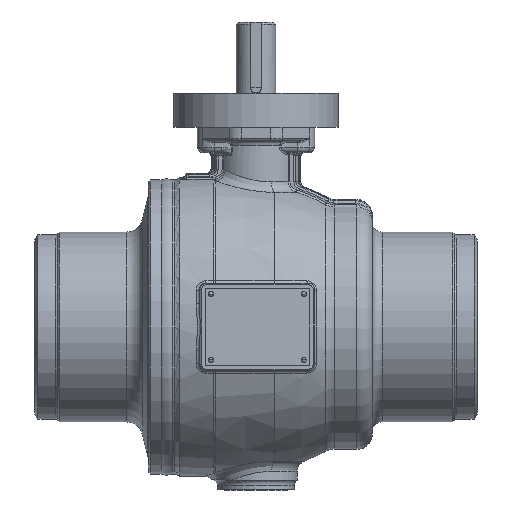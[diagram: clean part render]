
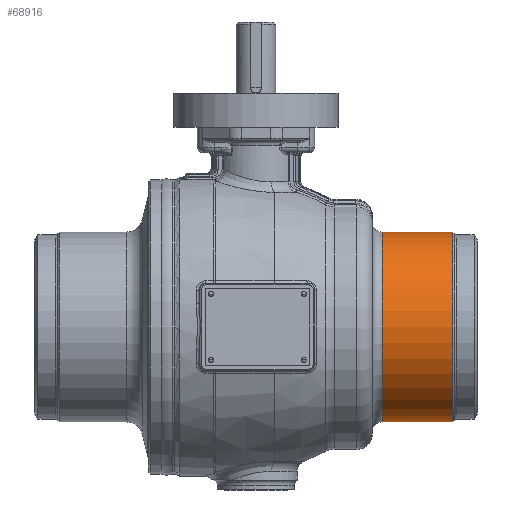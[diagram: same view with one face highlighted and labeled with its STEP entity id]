
A CAD part, front view. The second image highlights one B-rep face of the part: STEP entity #68916.
In plain terms, the highlighted cylindrical face has radius 86.5 mm (diameter 173 mm), a partial arc.
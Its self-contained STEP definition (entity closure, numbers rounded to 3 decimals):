
#16067=CARTESIAN_POINT('',(179.15,0.,0.));
#16068=DIRECTION('',(-1.,0.,0.));
#16069=DIRECTION('',(0.,0.,-1.));
#16070=AXIS2_PLACEMENT_3D('',#16067,#16068,#16069);
#16072=DIRECTION('',(-1.,0.,0.));
#16073=VECTOR('',#16072,64.15);
#16074=CARTESIAN_POINT('',(179.15,0.,-86.5));
#16075=LINE('',#16074,#16073);
#16076=CARTESIAN_POINT('',(115.,0.,0.));
#16077=DIRECTION('',(1.,0.,0.));
#16078=DIRECTION('',(0.,0.,1.));
#16079=AXIS2_PLACEMENT_3D('',#16076,#16077,#16078);
#16081=DIRECTION('',(-1.,0.,0.));
#16082=VECTOR('',#16081,64.15);
#16083=CARTESIAN_POINT('',(179.15,0.,86.5));
#16084=LINE('',#16083,#16082);
#31096=CARTESIAN_POINT('',(115.,0.,86.5));
#31097=CARTESIAN_POINT('',(115.,0.,-86.5));
#31098=VERTEX_POINT('',#31096);
#31099=VERTEX_POINT('',#31097);
#31192=CARTESIAN_POINT('',(179.15,0.,86.5));
#31193=CARTESIAN_POINT('',(179.15,0.,-86.5));
#31194=VERTEX_POINT('',#31192);
#31195=VERTEX_POINT('',#31193);
#68905=CARTESIAN_POINT('',(218.35,0.,0.));
#68906=DIRECTION('',(-1.,0.,0.));
#68907=DIRECTION('',(0.,0.,1.));
#68908=AXIS2_PLACEMENT_3D('',#68905,#68906,#68907);
#68909=CYLINDRICAL_SURFACE('',#68908,86.5);
#68910=ORIENTED_EDGE('',*,*,#68899,.F.);
#68911=ORIENTED_EDGE('',*,*,#68815,.T.);
#68912=ORIENTED_EDGE('',*,*,#68785,.F.);
#68913=ORIENTED_EDGE('',*,*,#68812,.F.);
#68914=EDGE_LOOP('',(#68910,#68911,#68912,#68913));
#68915=FACE_OUTER_BOUND('',#68914,.F.);
#68916=ADVANCED_FACE('',(#68915),#68909,.T.);
#16071=CIRCLE('',#16070,86.5);
#16080=CIRCLE('',#16079,86.5);
#68785=EDGE_CURVE('',#31098,#31099,#16080,.T.);
#68812=EDGE_CURVE('',#31194,#31098,#16084,.T.);
#68815=EDGE_CURVE('',#31195,#31099,#16075,.T.);
#68899=EDGE_CURVE('',#31195,#31194,#16071,.T.);
